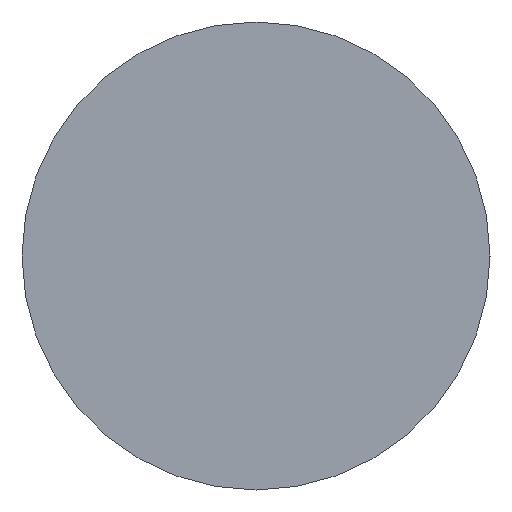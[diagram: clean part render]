
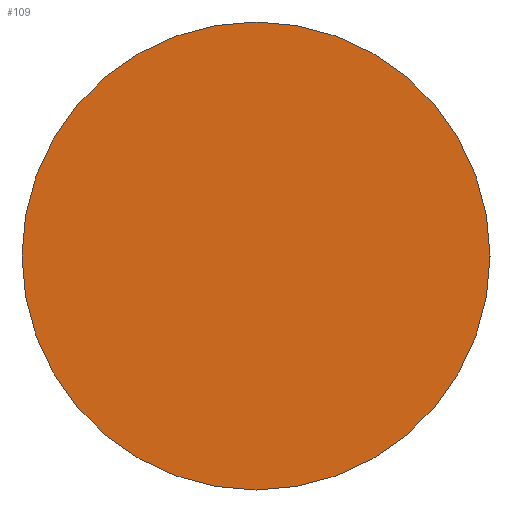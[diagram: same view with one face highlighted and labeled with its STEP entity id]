
A CAD part, left-side view. The second image highlights one B-rep face of the part: STEP entity #109.
In plain terms, the highlighted planar face has unit normal (-1, 0, 0).
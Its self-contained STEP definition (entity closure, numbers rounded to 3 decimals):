
#31 = CYLINDRICAL_SURFACE('',#32,30.);
#32 = AXIS2_PLACEMENT_3D('',#33,#34,#35);
#33 = CARTESIAN_POINT('',(838.,-350.,1100.));
#34 = DIRECTION('',(1.,0.,0.));
#35 = DIRECTION('',(-0.,0.,1.));
#56 = VERTEX_POINT('',#57);
#57 = CARTESIAN_POINT('',(838.,-350.,1130.));
#78 = EDGE_CURVE('',#56,#56,#79,.T.);
#79 = SURFACE_CURVE('',#80,(#85,#92),.PCURVE_S1.);
#80 = CIRCLE('',#81,30.);
#81 = AXIS2_PLACEMENT_3D('',#82,#83,#84);
#82 = CARTESIAN_POINT('',(838.,-350.,1100.));
#83 = DIRECTION('',(1.,0.,0.));
#84 = DIRECTION('',(-0.,0.,1.));
#85 = PCURVE('',#31,#86);
#86 = DEFINITIONAL_REPRESENTATION('',(#87),#91);
#87 = LINE('',#88,#89);
#88 = CARTESIAN_POINT('',(0.,0.));
#89 = VECTOR('',#90,1.);
#90 = DIRECTION('',(1.,0.));
#91 = ( GEOMETRIC_REPRESENTATION_CONTEXT(2) 
PARAMETRIC_REPRESENTATION_CONTEXT() REPRESENTATION_CONTEXT('2D SPACE',''
  ) );
#92 = PCURVE('',#93,#98);
#93 = PLANE('',#94);
#94 = AXIS2_PLACEMENT_3D('',#95,#96,#97);
#95 = CARTESIAN_POINT('',(838.,-350.,1100.));
#96 = DIRECTION('',(1.,0.,0.));
#97 = DIRECTION('',(-0.,0.,1.));
#98 = DEFINITIONAL_REPRESENTATION('',(#99),#103);
#99 = CIRCLE('',#100,30.);
#100 = AXIS2_PLACEMENT_2D('',#101,#102);
#101 = CARTESIAN_POINT('',(0.,0.));
#102 = DIRECTION('',(1.,0.));
#103 = ( GEOMETRIC_REPRESENTATION_CONTEXT(2) 
PARAMETRIC_REPRESENTATION_CONTEXT() REPRESENTATION_CONTEXT('2D SPACE',''
  ) );
#109 = ADVANCED_FACE('',(#110),#93,.F.);
#110 = FACE_BOUND('',#111,.T.);
#111 = EDGE_LOOP('',(#112));
#112 = ORIENTED_EDGE('',*,*,#78,.F.);
